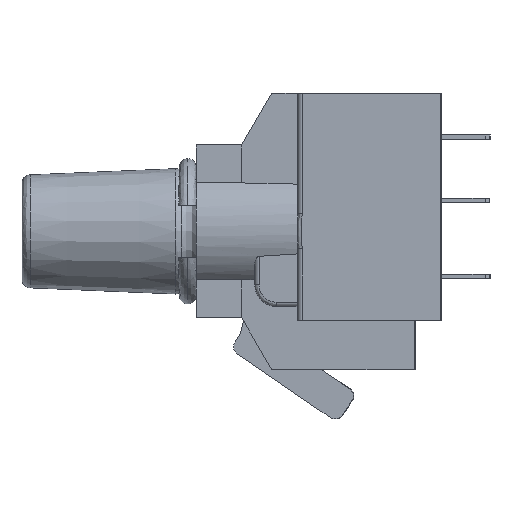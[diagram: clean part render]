
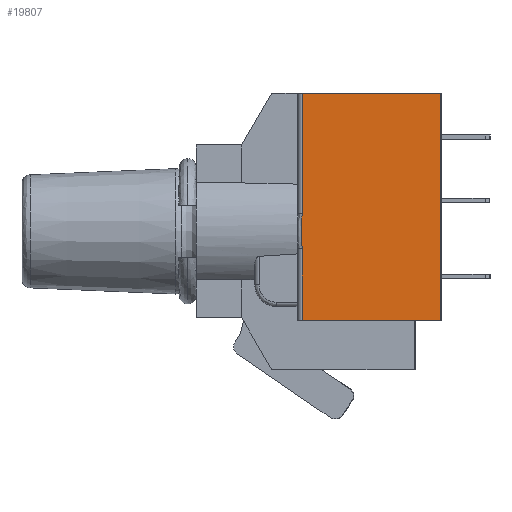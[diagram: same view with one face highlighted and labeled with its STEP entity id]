
A CAD part, front view. The second image highlights one B-rep face of the part: STEP entity #19807.
In plain terms, the highlighted planar face has unit normal (-0.025, -1, 0).
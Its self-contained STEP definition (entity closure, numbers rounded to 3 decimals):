
#31 = B_SPLINE_CURVE_WITH_KNOTS ( 'NONE', 3,
 ( #21319, #21312, #21311, #21321, #21322, #21323, #21324, #21325, #21326, #21327 ),
 .UNSPECIFIED., .F., .F.,
 ( 4, 2, 2, 2, 4 ),
 ( 0., 0.25, 0.5, 0.75, 1. ),
 .UNSPECIFIED. ) ;
#1986 = ORIENTED_EDGE ( 'NONE', *, *, #7721, .F. ) ;
#1988 = ORIENTED_EDGE ( 'NONE', *, *, #7731, .F. ) ;
#1990 = ORIENTED_EDGE ( 'NONE', *, *, #7729, .F. ) ;
#1992 = ORIENTED_EDGE ( 'NONE', *, *, #7727, .F. ) ;
#1994 = ORIENTED_EDGE ( 'NONE', *, *, #7725, .F. ) ;
#1996 = ORIENTED_EDGE ( 'NONE', *, *, #7722, .F. ) ;
#2201 = EDGE_LOOP ( 'NONE', ( #1996, #1994, #1992, #1990, #1988, #1986 ) ) ;
#7721 = EDGE_CURVE ( 'NONE', #17760, #17964, #31, .T. ) ;
#7722 = EDGE_CURVE ( 'NONE', #17936, #17760, #21320, .T. ) ;
#7725 = EDGE_CURVE ( 'NONE', #17917, #17936, #21330, .T. ) ;
#7727 = EDGE_CURVE ( 'NONE', #17937, #17917, #21335, .T. ) ;
#7729 = EDGE_CURVE ( 'NONE', #17912, #17937, #19944, .T. ) ;
#7731 = EDGE_CURVE ( 'NONE', #17964, #17912, #19937, .T. ) ;
#9376 = CARTESIAN_POINT ( 'NONE',  ( 32.411, -7.476, -2.018 ) ) ;
#9525 = CARTESIAN_POINT ( 'NONE',  ( 32.411, -7.476, 16. ) ) ;
#9530 = CARTESIAN_POINT ( 'NONE',  ( 48.391, -7.876, -10.3 ) ) ;
#9548 = CARTESIAN_POINT ( 'NONE',  ( 32.411, -7.476, -10.3 ) ) ;
#9549 = CARTESIAN_POINT ( 'NONE',  ( 48.391, -7.876, 16. ) ) ;
#9576 = CARTESIAN_POINT ( 'NONE',  ( 32.411, -7.476, 2.018 ) ) ;
#12048 = PLANE ( 'NONE',  #18545 ) ;
#12063 = FACE_OUTER_BOUND ( 'NONE', #2201, .T. ) ;
#12073 = CARTESIAN_POINT ( 'NONE',  ( 48.391, -7.876, 16. ) ) ;
#12074 = DIRECTION ( 'NONE',  ( 0.025, 1., 0. ) ) ;
#12075 = DIRECTION ( 'NONE',  ( -1., 0.025, 0. ) ) ;
#15295 = DIRECTION ( 'NONE',  ( -1., 0.025, 0. ) ) ;
#17760 = VERTEX_POINT ( 'NONE', #9376 ) ;
#17912 = VERTEX_POINT ( 'NONE', #9525 ) ;
#17917 = VERTEX_POINT ( 'NONE', #9530 ) ;
#17936 = VERTEX_POINT ( 'NONE', #9548 ) ;
#17937 = VERTEX_POINT ( 'NONE', #9549 ) ;
#17964 = VERTEX_POINT ( 'NONE', #9576 ) ;
#18545 = AXIS2_PLACEMENT_3D ( 'NONE', #12073, #12074, #12075 ) ;
#19535 = VECTOR ( 'NONE', #21329, 1000. ) ;
#19550 = VECTOR ( 'NONE', #15295, 1000. ) ;
#19560 = VECTOR ( 'NONE', #19940, 1000. ) ;
#19576 = VECTOR ( 'NONE', #19946, 1000. ) ;
#19589 = VECTOR ( 'NONE', #19952, 1000. ) ;
#19807 = ADVANCED_FACE ( 'NONE', ( #12063 ), #12048, .F. ) ;
#19937 = LINE ( 'NONE', #19951, #19589 ) ;
#19939 = CARTESIAN_POINT ( 'NONE',  ( 48.391, -7.876, 16. ) ) ;
#19940 = DIRECTION ( 'NONE',  ( 0., 0., -1. ) ) ;
#19944 = LINE ( 'NONE', #19945, #19576 ) ;
#19945 = CARTESIAN_POINT ( 'NONE',  ( 48.391, -7.876, 16. ) ) ;
#19946 = DIRECTION ( 'NONE',  ( 1., -0.025, 0. ) ) ;
#19951 = CARTESIAN_POINT ( 'NONE',  ( 32.411, -7.476, 16. ) ) ;
#19952 = DIRECTION ( 'NONE',  ( 0., 0., 1. ) ) ;
#21311 = CARTESIAN_POINT ( 'NONE',  ( 32.386, -7.475, -1.345 ) ) ;
#21312 = CARTESIAN_POINT ( 'NONE',  ( 32.411, -7.476, -1.681 ) ) ;
#21319 = CARTESIAN_POINT ( 'NONE',  ( 32.411, -7.476, -2.018 ) ) ;
#21320 = LINE ( 'NONE', #21328, #19535 ) ;
#21321 = CARTESIAN_POINT ( 'NONE',  ( 32.34, -7.474, -0.673 ) ) ;
#21322 = CARTESIAN_POINT ( 'NONE',  ( 32.321, -7.474, -0.337 ) ) ;
#21323 = CARTESIAN_POINT ( 'NONE',  ( 32.321, -7.474, 0.337 ) ) ;
#21324 = CARTESIAN_POINT ( 'NONE',  ( 32.34, -7.474, 0.673 ) ) ;
#21325 = CARTESIAN_POINT ( 'NONE',  ( 32.386, -7.475, 1.345 ) ) ;
#21326 = CARTESIAN_POINT ( 'NONE',  ( 32.411, -7.476, 1.681 ) ) ;
#21327 = CARTESIAN_POINT ( 'NONE',  ( 32.411, -7.476, 2.018 ) ) ;
#21328 = CARTESIAN_POINT ( 'NONE',  ( 32.411, -7.476, 16. ) ) ;
#21329 = DIRECTION ( 'NONE',  ( 0., 0., 1. ) ) ;
#21330 = LINE ( 'NONE', #21331, #19550 ) ;
#21331 = CARTESIAN_POINT ( 'NONE',  ( 48.391, -7.876, -10.3 ) ) ;
#21335 = LINE ( 'NONE', #19939, #19560 ) ;
